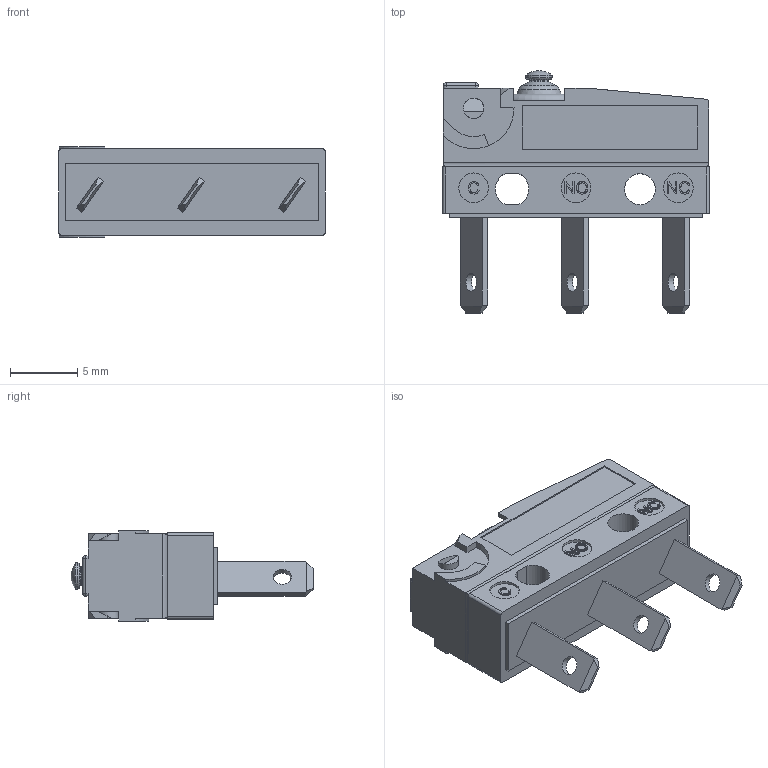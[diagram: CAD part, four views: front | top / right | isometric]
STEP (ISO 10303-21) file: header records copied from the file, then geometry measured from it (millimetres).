
FILE_DESCRIPTION(('Microrutor Subminiatura Protegido Pino'),'2;1');
FILE_NAME('E:\WorkFolder\Bibl\3DWeb\kp_mm_mmp$a$f_step.stp','2020-04-15T14:42:11',('DIE'),('KAP Componentes Eletricos Ltda.'),'Autodesk Inventor 2011','Autodesk Inventor 2011','Direitos reservados. Proibido reproducao, cedencia ou revelacao de conteudo a terceiros, salvo com autorizacao.');
FILE_SCHEMA(('AUTOMOTIVE_DESIGN { 1 0 10303 214 1 1 1 1 }'));
Length unit declared in the file: millimetre
Products named in the file (1): Part5
Bounding box: 19.8 x 17.99 x 6.7 mm (x, y, z)
Volume: 1090.2 mm3; surface area: 1017.6 mm2
Topology: 1 solids, 1 shells, 310 faces, 799 edges, 521 vertices
Faces by surface type: plane 201, bspline 57, cylinder 41, sphere 5, cone 3, torus 3
Full cylindrical faces by diameter (mm): 1.35 x4, 1.5 x2, 1.95 x1, 2.2 x6, 2.3 x1
Entity records: 10580 total; most frequent: CARTESIAN_POINT 3083, ORIENTED_EDGE 1548, DIRECTION 1248, EDGE_CURVE 774, VECTOR 572, LINE 572, VERTEX_POINT 518, EDGE_LOOP 372
